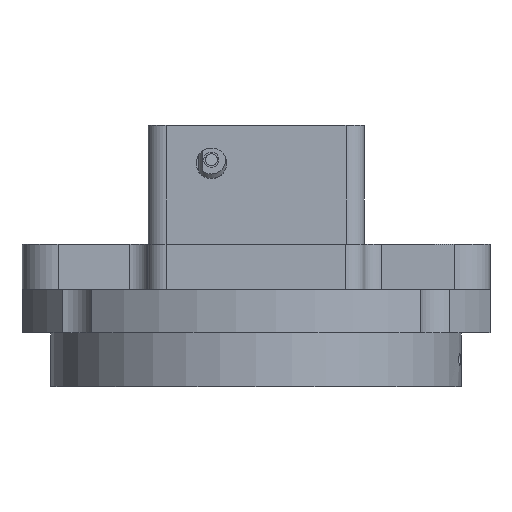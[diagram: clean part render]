
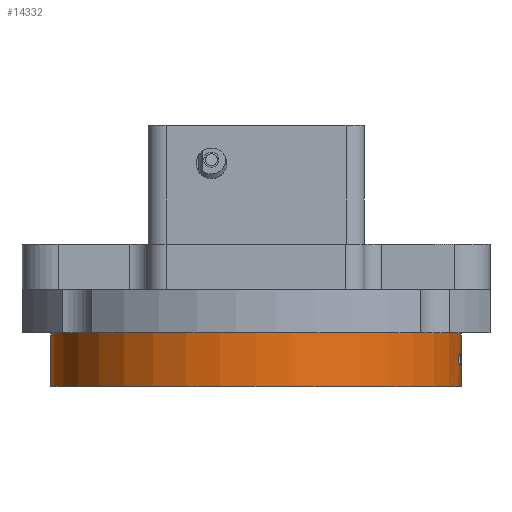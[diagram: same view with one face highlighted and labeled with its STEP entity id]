
A CAD part, front view. The second image highlights one B-rep face of the part: STEP entity #14332.
In plain terms, the highlighted cylindrical face has radius 57 mm (diameter 114 mm), a partial arc.
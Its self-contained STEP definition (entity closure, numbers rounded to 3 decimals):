
#641 = CARTESIAN_POINT ( 'NONE',  ( 43.112, 0.558, 136.471 ) ) ;
#693 = CARTESIAN_POINT ( 'NONE',  ( 43.017, -0.108, 138.901 ) ) ;
#699 = EDGE_CURVE ( 'NONE', #3356, #3954, #12335, .T. ) ;
#716 = ORIENTED_EDGE ( 'NONE', *, *, #7917, .T. ) ;
#739 = CIRCLE ( 'NONE', #6443, 57. ) ;
#806 = CARTESIAN_POINT ( 'NONE',  ( 43.343, 2.494, 138.991 ) ) ;
#978 = CARTESIAN_POINT ( 'NONE',  ( 43.29, 1.997, 136.52 ) ) ;
#1366 = CYLINDRICAL_SURFACE ( 'NONE', #2477, 57. ) ;
#1702 = FACE_BOUND ( 'NONE', #6091, .T. ) ;
#1749 = CARTESIAN_POINT ( 'NONE',  ( 43.074, 0.281, 136.629 ) ) ;
#1805 = CARTESIAN_POINT ( 'NONE',  ( 43.085, 0.359, 139.335 ) ) ;
#1915 = CARTESIAN_POINT ( 'NONE',  ( 43.369, 2.755, 138.527 ) ) ;
#1919 = AXIS2_PLACEMENT_3D ( 'NONE', #3192, #11069, #4311 ) ;
#2036 = CARTESIAN_POINT ( 'NONE',  ( -70.362, 8.282, 160.95 ) ) ;
#2095 = CARTESIAN_POINT ( 'NONE',  ( 43.233, 1.495, 136.34 ) ) ;
#2477 = AXIS2_PLACEMENT_3D ( 'NONE', #14190, #9712, #7446 ) ;
#2571 = DIRECTION ( 'NONE',  ( 0., 0., -1. ) ) ;
#2900 = CARTESIAN_POINT ( 'NONE',  ( 43.028, -0.038, 136.909 ) ) ;
#2946 = CARTESIAN_POINT ( 'NONE',  ( 43.166, 0.958, 139.559 ) ) ;
#3065 = CARTESIAN_POINT ( 'NONE',  ( 43.377, 2.839, 138.218 ) ) ;
#3192 = CARTESIAN_POINT ( 'NONE',  ( -13.362, 8.282, 153.45 ) ) ;
#3356 = VERTEX_POINT ( 'NONE', #12408 ) ;
#3599 = CARTESIAN_POINT ( 'NONE',  ( -70.362, 8.282, 130.45 ) ) ;
#3850 = B_SPLINE_CURVE_WITH_KNOTS ( 'NONE', 3,
 ( #4142, #10886, #5266, #13145, #6424, #14289, #7544, #806, #8671, #1915, #9812, #3065, #10935, #4186, #12051, #5323, #13195, #5454, #13329, #6597, #14465, #7721, #978, #8851, #2095, #9985 ),
 .UNSPECIFIED., .F., .F.,
 ( 4, 2, 2, 2, 2, 2, 2, 2, 2, 2, 2, 2, 4 ),
 ( 0.5, 0.531, 0.563, 0.625, 0.688, 0.719, 0.75, 0.781, 0.813, 0.875, 0.906, 0.937, 1. ),
 .UNSPECIFIED. ) ;
#3918 = ORIENTED_EDGE ( 'NONE', *, *, #5519, .T. ) ;
#3954 = VERTEX_POINT ( 'NONE', #14146 ) ;
#4029 = CARTESIAN_POINT ( 'NONE',  ( 42.982, -0.344, 137.47 ) ) ;
#4142 = CARTESIAN_POINT ( 'NONE',  ( 43.193, 1.171, 139.567 ) ) ;
#4186 = CARTESIAN_POINT ( 'NONE',  ( 43.38, 2.861, 137.901 ) ) ;
#4311 = DIRECTION ( 'NONE',  ( 1., 0., 0. ) ) ;
#4314 = EDGE_LOOP ( 'NONE', ( #10896, #8785, #716, #10067 ) ) ;
#4706 = VERTEX_POINT ( 'NONE', #6671 ) ;
#4917 = CARTESIAN_POINT ( 'NONE',  ( 43.638, 8.282, 160.95 ) ) ;
#5152 = CARTESIAN_POINT ( 'NONE',  ( 42.972, -0.405, 137.999 ) ) ;
#5266 = CARTESIAN_POINT ( 'NONE',  ( 43.219, 1.383, 139.564 ) ) ;
#5323 = CARTESIAN_POINT ( 'NONE',  ( 43.376, 2.82, 137.584 ) ) ;
#5377 = VECTOR ( 'NONE', #9936, 1000. ) ;
#5454 = CARTESIAN_POINT ( 'NONE',  ( 43.362, 2.679, 137.182 ) ) ;
#5519 = EDGE_CURVE ( 'NONE', #4706, #10864, #13128, .T. ) ;
#6091 = EDGE_LOOP ( 'NONE', ( #3918, #11185 ) ) ;
#6308 = CARTESIAN_POINT ( 'NONE',  ( 42.978, -0.364, 138.315 ) ) ;
#6424 = CARTESIAN_POINT ( 'NONE',  ( 43.256, 1.697, 139.503 ) ) ;
#6443 = AXIS2_PLACEMENT_3D ( 'NONE', #9332, #2571, #10459 ) ;
#6597 = CARTESIAN_POINT ( 'NONE',  ( 43.328, 2.344, 136.766 ) ) ;
#6671 = CARTESIAN_POINT ( 'NONE',  ( 43.206, 1.282, 136.333 ) ) ;
#7389 = CARTESIAN_POINT ( 'NONE',  ( 43.152, 0.856, 136.361 ) ) ;
#7436 = CARTESIAN_POINT ( 'NONE',  ( 43., -0.224, 138.716 ) ) ;
#7446 = DIRECTION ( 'NONE',  ( -1., 0., 0. ) ) ;
#7544 = CARTESIAN_POINT ( 'NONE',  ( 43.311, 2.182, 139.279 ) ) ;
#7721 = CARTESIAN_POINT ( 'NONE',  ( 43.301, 2.091, 136.573 ) ) ;
#7917 = EDGE_CURVE ( 'NONE', #3954, #12300, #8728, .T. ) ;
#7938 = VECTOR ( 'NONE', #11667, 1000. ) ;
#8466 = CARTESIAN_POINT ( 'NONE',  ( 43.206, 1.282, 136.333 ) ) ;
#8518 = CARTESIAN_POINT ( 'NONE',  ( 43.099, 0.462, 136.518 ) ) ;
#8559 = CARTESIAN_POINT ( 'NONE',  ( 43.06, 0.182, 139.209 ) ) ;
#8671 = CARTESIAN_POINT ( 'NONE',  ( 43.356, 2.622, 138.815 ) ) ;
#8728 = LINE ( 'NONE', #2036, #5377 ) ;
#8785 = ORIENTED_EDGE ( 'NONE', *, *, #699, .T. ) ;
#8851 = CARTESIAN_POINT ( 'NONE',  ( 43.258, 1.707, 136.389 ) ) ;
#9159 = EDGE_CURVE ( 'NONE', #10864, #4706, #3850, .T. ) ;
#9332 = CARTESIAN_POINT ( 'NONE',  ( -13.362, 8.282, 130.45 ) ) ;
#9654 = CARTESIAN_POINT ( 'NONE',  ( 43.062, 0.197, 136.693 ) ) ;
#9702 = CARTESIAN_POINT ( 'NONE',  ( 43.138, 0.745, 139.509 ) ) ;
#9712 = DIRECTION ( 'NONE',  ( 0., 0., -1. ) ) ;
#9812 = CARTESIAN_POINT ( 'NONE',  ( 43.373, 2.79, 138.425 ) ) ;
#9936 = DIRECTION ( 'NONE',  ( 0., 0., -1. ) ) ;
#9985 = CARTESIAN_POINT ( 'NONE',  ( 43.206, 1.282, 136.333 ) ) ;
#10067 = ORIENTED_EDGE ( 'NONE', *, *, #10887, .F. ) ;
#10459 = DIRECTION ( 'NONE',  ( -1., 0., 0. ) ) ;
#10676 = CARTESIAN_POINT ( 'NONE',  ( 43.18, 1.071, 136.326 ) ) ;
#10778 = CARTESIAN_POINT ( 'NONE',  ( 43.009, -0.165, 137.082 ) ) ;
#10826 = CARTESIAN_POINT ( 'NONE',  ( 43.193, 1.171, 139.567 ) ) ;
#10864 = VERTEX_POINT ( 'NONE', #11492 ) ;
#10886 = CARTESIAN_POINT ( 'NONE',  ( 43.206, 1.277, 139.57 ) ) ;
#10887 = EDGE_CURVE ( 'NONE', #13024, #12300, #739, .T. ) ;
#10896 = ORIENTED_EDGE ( 'NONE', *, *, #11538, .F. ) ;
#10935 = CARTESIAN_POINT ( 'NONE',  ( 43.379, 2.854, 138.113 ) ) ;
#11069 = DIRECTION ( 'NONE',  ( 0., 0., -1. ) ) ;
#11185 = ORIENTED_EDGE ( 'NONE', *, *, #9159, .T. ) ;
#11492 = CARTESIAN_POINT ( 'NONE',  ( 43.193, 1.171, 139.567 ) ) ;
#11538 = EDGE_CURVE ( 'NONE', #3356, #13024, #13921, .T. ) ;
#11667 = DIRECTION ( 'NONE',  ( 0., 0., -1. ) ) ;
#11894 = CARTESIAN_POINT ( 'NONE',  ( 42.974, -0.394, 137.681 ) ) ;
#12051 = CARTESIAN_POINT ( 'NONE',  ( 43.379, 2.854, 137.792 ) ) ;
#12300 = VERTEX_POINT ( 'NONE', #3599 ) ;
#12335 = CIRCLE ( 'NONE', #1919, 57. ) ;
#12408 = CARTESIAN_POINT ( 'NONE',  ( 43.638, 8.282, 153.45 ) ) ;
#13024 = VERTEX_POINT ( 'NONE', #13282 ) ;
#13027 = CARTESIAN_POINT ( 'NONE',  ( 42.973, -0.398, 138.105 ) ) ;
#13128 = B_SPLINE_CURVE_WITH_KNOTS ( 'NONE', 3,
 ( #8466, #10676, #7389, #641, #8518, #1749, #9654, #2900, #10778, #4029, #11894, #5152, #13027, #6308, #14182, #7436, #693, #8559, #1805, #9702, #2946, #10826 ),
 .UNSPECIFIED., .F., .F.,
 ( 4, 2, 2, 2, 2, 2, 2, 2, 2, 2, 4 ),
 ( 0., 0.062, 0.094, 0.125, 0.187, 0.25, 0.281, 0.312, 0.375, 0.437, 0.5 ),
 .UNSPECIFIED. ) ;
#13145 = CARTESIAN_POINT ( 'NONE',  ( 43.244, 1.593, 139.53 ) ) ;
#13195 = CARTESIAN_POINT ( 'NONE',  ( 43.373, 2.792, 137.481 ) ) ;
#13282 = CARTESIAN_POINT ( 'NONE',  ( 43.638, 8.282, 130.45 ) ) ;
#13329 = CARTESIAN_POINT ( 'NONE',  ( 43.351, 2.564, 136.998 ) ) ;
#13332 = FACE_OUTER_BOUND ( 'NONE', #4314, .T. ) ;
#13921 = LINE ( 'NONE', #4917, #7938 ) ;
#14146 = CARTESIAN_POINT ( 'NONE',  ( -70.362, 8.282, 153.45 ) ) ;
#14182 = CARTESIAN_POINT ( 'NONE',  ( 42.983, -0.336, 138.419 ) ) ;
#14190 = CARTESIAN_POINT ( 'NONE',  ( -13.362, 8.282, 160.95 ) ) ;
#14289 = CARTESIAN_POINT ( 'NONE',  ( 43.291, 1.996, 139.393 ) ) ;
#14332 = ADVANCED_FACE ( 'NONE', ( #13332, #1702 ), #1366, .T. ) ;
#14465 = CARTESIAN_POINT ( 'NONE',  ( 43.319, 2.264, 136.697 ) ) ;
